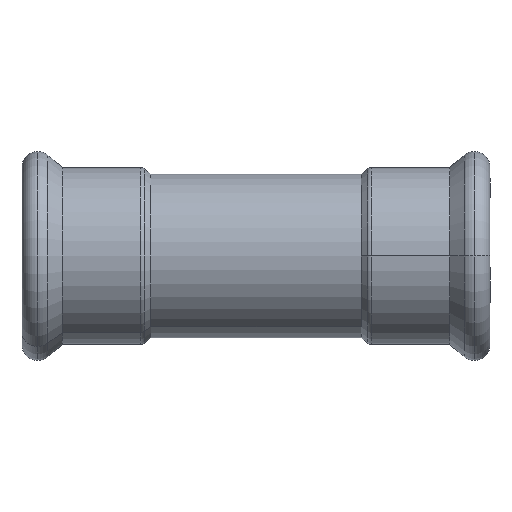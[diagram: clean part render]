
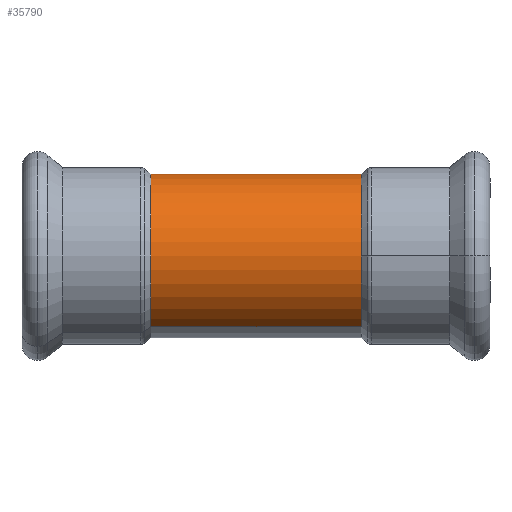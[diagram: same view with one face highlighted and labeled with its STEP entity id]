
A CAD part, front view. The second image highlights one B-rep face of the part: STEP entity #35790.
In plain terms, the highlighted cylindrical face has radius 21 mm (diameter 42 mm), a partial arc.
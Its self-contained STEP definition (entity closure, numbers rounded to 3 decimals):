
#450=CARTESIAN_POINT('',(-50.154,197.131,0.));
#460=DIRECTION('',(0.,1.,0.));
#470=DIRECTION('',(-1.,0.,0.));
#480=AXIS2_PLACEMENT_3D('',#450,#460,#470);
#490=CYLINDRICAL_SURFACE('',#480,21.);
#500=CARTESIAN_POINT('',(-71.154,197.131,0.));
#510=DIRECTION('',(0.,1.,0.));
#520=VECTOR('',#510,1.);
#530=LINE('',#500,#520);
#540=CARTESIAN_POINT('',(-71.154,143.131,0.));
#550=VERTEX_POINT('',#540);
#560=CARTESIAN_POINT('',(-71.154,197.131,0.));
#570=VERTEX_POINT('',#560);
#580=EDGE_CURVE('',#550,#570,#530,.T.);
#600=CARTESIAN_POINT('',(-50.154,197.131,
0.));
#610=DIRECTION('',(0.,1.,0.));
#620=DIRECTION('',(1.,0.,0.));
#630=AXIS2_PLACEMENT_3D('',#600,#610,#620);
#640=CIRCLE('',#630,21.);
#690=CARTESIAN_POINT('',(-29.154,197.131,
0.));
#700=VERTEX_POINT('',#690);
#730=CARTESIAN_POINT('',(-29.154,197.131,
0.));
#740=DIRECTION('',(0.,1.,0.));
#750=VECTOR('',#740,1.);
#760=LINE('',#730,#750);
#770=CARTESIAN_POINT('',(-29.154,143.131,
0.));
#780=VERTEX_POINT('',#770);
#790=EDGE_CURVE('',#780,#700,#760,.T.);
#810=CARTESIAN_POINT('',(-50.154,143.131,
0.));
#820=DIRECTION('',(0.,-1.,0.));
#830=DIRECTION('',(-0.5,0.,
0.866));
#840=AXIS2_PLACEMENT_3D('',#810,#820,#830);
#850=CIRCLE('',#840,21.);
#20930=CARTESIAN_POINT('',(-39.654,143.131,
-18.187));
#20940=VERTEX_POINT('',#20930);
#20970=EDGE_CURVE('',#550,#20940,#850,.T.);
#31060=EDGE_CURVE('',#20940,#780,#850,.T.);
#34540=EDGE_CURVE('',#700,#570,#640,.T.);
#35720=ORIENTED_EDGE('',*,*,#20970,.F.);
#35730=ORIENTED_EDGE('',*,*,#31060,.F.);
#35740=ORIENTED_EDGE('',*,*,#790,.F.);
#35750=ORIENTED_EDGE('',*,*,#34540,.F.);
#35760=ORIENTED_EDGE('',*,*,#580,.T.);
#35770=EDGE_LOOP('',(#35760,#35750,#35740,#35730,#35720));
#35780=FACE_OUTER_BOUND('',#35770,.T.);
#35790=ADVANCED_FACE('',(#35780),#490,.T.);
